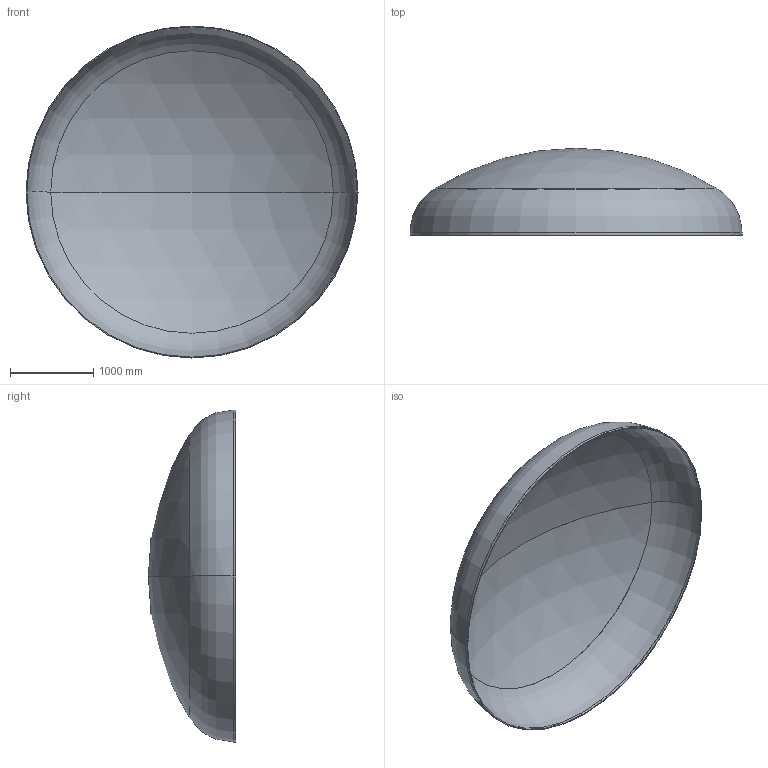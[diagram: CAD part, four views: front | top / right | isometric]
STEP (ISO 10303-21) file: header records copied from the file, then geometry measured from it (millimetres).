
FILE_DESCRIPTION (( 'STEP AP203' ), '1' );
FILE_NAME ('DIN 28013 Korbbogenform_-_Boden DIN 28013 - 4000 x 30 - I - s=10.step', '2016-07-01T22:00:28', ( '' ), ( '' ), 'SwSTEP 2.0', 'SolidWorks 2013', '' );
FILE_SCHEMA (( 'CONFIG_CONTROL_DESIGN' ));
Length unit declared in the file: millimetre
Products named in the file (1): DIN 28013 Korbbogenform_-_Boden DIN 28013 - 4000 x 30 - I - s=10
Bounding box: 4000 x 1051.03 x 4000 mm (x, y, z)
Volume: 177187898 mm3; surface area: 35563124 mm2
Topology: 1 solids, 1 shells, 13 faces, 24 edges, 14 vertices
Faces by surface type: torus 4, cylinder 4, sphere 4, plane 1
Entity records: 407 total; most frequent: DIRECTION 72, CARTESIAN_POINT 52, ORIENTED_EDGE 48, AXIS2_PLACEMENT_3D 34, EDGE_CURVE 24, CIRCLE 20, VERTEX_POINT 14, EDGE_LOOP 14
